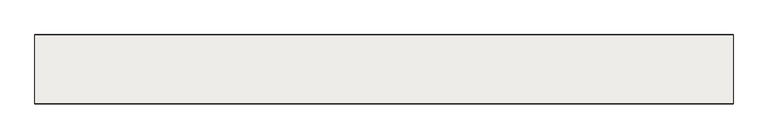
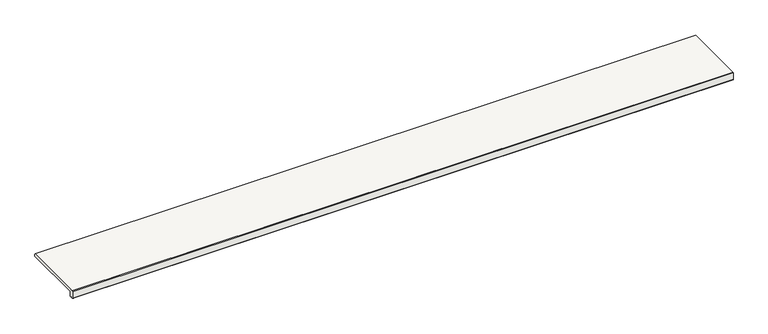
"""IFC4 building model written with IfcOpenShell, lengths in millimetres: slab geometry, ROSA GRES_L98 : Pieza L98_Serena_Ocra_Anti-Slip."""

from ifc_helpers import new_model, si_unit, point, frame, frame_2d, origin, place, context, project, spatial, polyline, circle_curve, trimmed, segment, composite_curve, outline, extrude, source, transform, mapped, element, save


def slab_aded0684(model_context):
    return source(origin(), model_context, "Body", "SweptSolid", [
        extrude(outline(composite_curve([segment(polyline([(17.5526771, -23.0), (11.8841218, -23.0)]), True, "CONTINUOUS"), segment(trimmed(circle_curve(frame_2d((10.0167467, -23.0)), 1.8673751), [point((11.8841218, -23.0))], [point((8.1493716, -23.0))], True, "CARTESIAN"), True, "CONTINUOUS"), segment(polyline([(8.1493716, -23.0), (2.5, -23.0)]), True, "CONTINUOUS"), segment(trimmed(circle_curve(frame_2d((2.5, -20.5)), 2.5), [point((2.5, -23.0))], [point((0.0, -20.5))], False, "CARTESIAN"), True, "CONTINUOUS"), segment(polyline([(0.0, -20.5), (0.0, 12.5), (2.5, 15.0), (314.5, 15.0), (317.0, 12.5), (317.0, 2.5)]), True, "CONTINUOUS"), segment(trimmed(circle_curve(frame_2d((314.5, 2.5)), 2.5), [point((317.0, 2.5))], [point((314.5, 0.0))], False, "CARTESIAN"), True, "CONTINUOUS"), segment(polyline([(314.5, 0.0), (22.471267, 0.0)]), True, "CONTINUOUS"), segment(trimmed(circle_curve(frame_2d((22.471267, -2.5191553)), 2.5191553), [point((22.471267, 0.0))], [point((19.9521117, -2.5191553))], True, "CARTESIAN"), True, "CONTINUOUS"), segment(polyline([(19.9521117, -2.5191553), (19.9521117, -20.6005654)]), True, "CONTINUOUS"), segment(trimmed(circle_curve(frame_2d((17.5526771, -20.6005654)), 2.3994346), [point((19.9521117, -20.6005654))], [point((17.5526771, -23.0))], False, "CARTESIAN"), True, "CONTINUOUS")], self_intersect=False)), frame((0.0, 0.0, 0.0), z_axis=(1.0, 0.0, 0.0), x_axis=(0.0, 1.0, 0.0)), (0.0, 0.0, 1.0), 3195.0002302),
    ])


if __name__ == "__main__":
    model = new_model("IFC4")
    model_context = context("Model", 3, world=origin())
    ifc_project = project(units=[si_unit("LENGTHUNIT", "METRE", prefix="MILLI")], contexts=[model_context])
    site = spatial("IfcSite", under=ifc_project)
    building = spatial("IfcBuilding", under=site)
    placement = place(None, origin())
    slab_shape = slab_aded0684(model_context)
    element("IfcSlab", 1, ObjectType="ROSA GRES_L98 : Pieza L98_Serena_Ocra_Anti-Slip", at=placement, inside=building, context=model_context, shape_type="MappedRepresentation", body=[
        mapped(slab_shape, transform((0.0, 0.0, 0.0), x_axis=(1.0, 0.0, 0.0), y_axis=(0.0, 1.0, 0.0), z_axis=(0.0, 0.0, 1.0))),
    ])
    save(model, "model.ifc")
